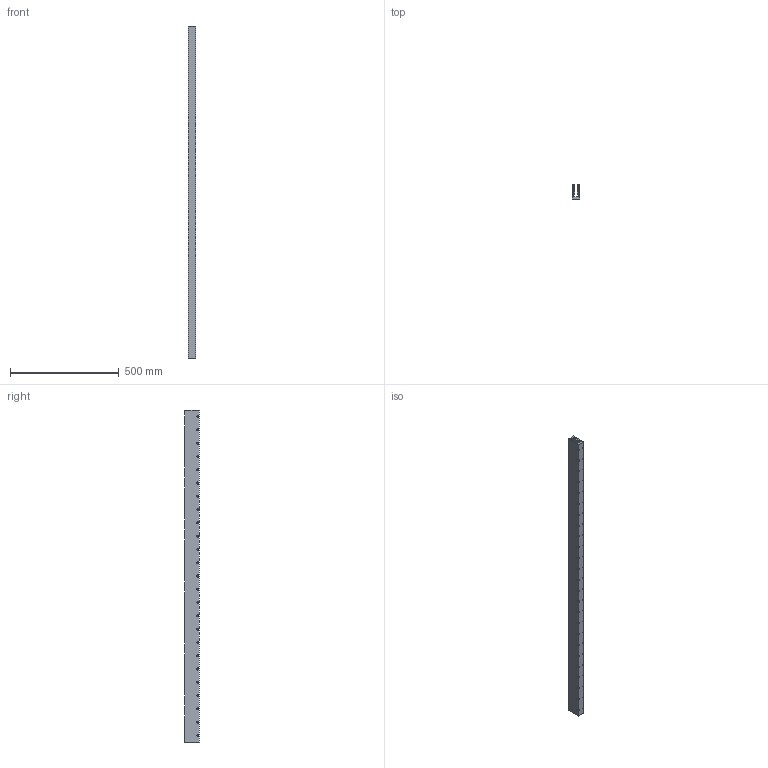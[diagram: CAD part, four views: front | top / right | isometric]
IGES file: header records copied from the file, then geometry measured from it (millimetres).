
Global section: file name: No Iges File Name specified; native system: Autodesk Inventor 2012; preprocessor: AutoDesk Inventor Iges Exporter R2012; author: je17857; date: 20120511.155904; units: inch
Bounding box: 34.29 x 67.31 x 1523.75 mm (x, y, z)
Volume: 2265841.7 mm3; surface area: 576647.4 mm2
Topology: 1 solids, 1 shells, 635 faces, 1449 edges, 966 vertices
Faces by surface type: plane 560, revolution 75
